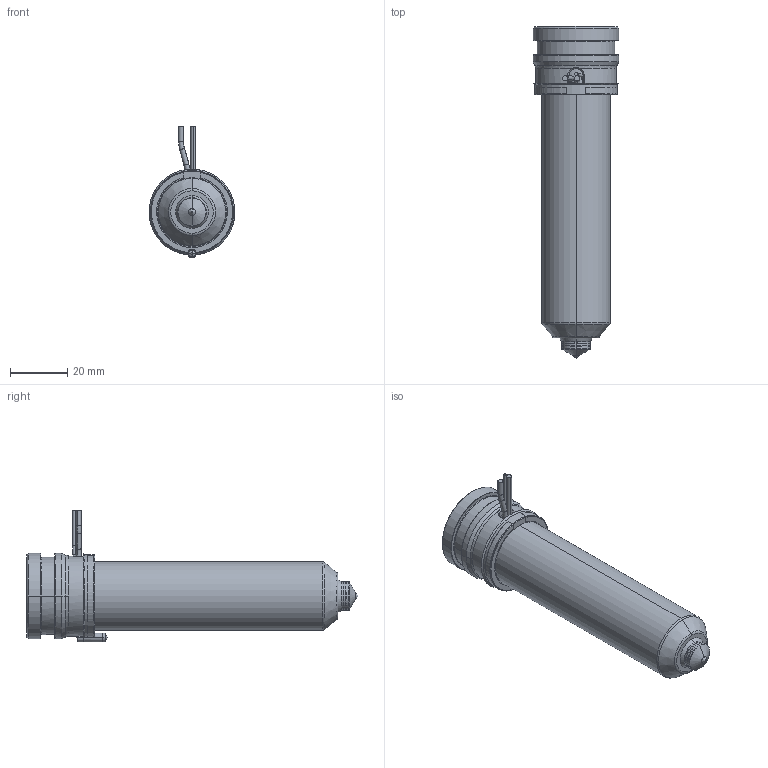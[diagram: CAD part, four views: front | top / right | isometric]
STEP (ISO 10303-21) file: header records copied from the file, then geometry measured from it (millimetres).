
FILE_DESCRIPTION((''),'2;1');
FILE_NAME('MPN-10-29-TS10-096-A','2026-02-05T12:32:59',('UPTIO'),('Thermoplay S.p.A.'),'CREO PARAMETRIC BY PTC INC, 2023494','CREO PARAMETRIC BY PTC INC, 2023494','');
FILE_SCHEMA(('CONFIG_CONTROL_DESIGN','SHAPE_APPEARANCE_LAYERS_GROUPS'));
Length unit declared in the file: millimetre
Products named in the file (1): MPN-10-29-TS10-096-A
Bounding box: 30 x 116 x 46 mm (x, y, z)
Volume: 37013.5 mm3; surface area: 36774.9 mm2
Topology: 2 solids, 3 shells, 552 faces, 1455 edges, 898 vertices
Faces by surface type: cylinder 180, plane 145, bspline 78, torus 68, cone 66, sphere 11, extrusion 4
Entity records: 28939 total; most frequent: CARTESIAN_POINT 12560, ORIENTED_EDGE 2894, DIRECTION 2651, EDGE_CURVE 1447, AXIS2_PLACEMENT_3D 1051, VERTEX_POINT 898, EDGE_LOOP 581, CIRCLE 580
